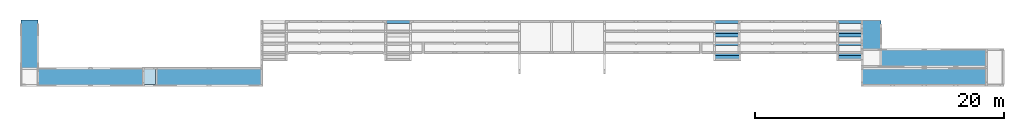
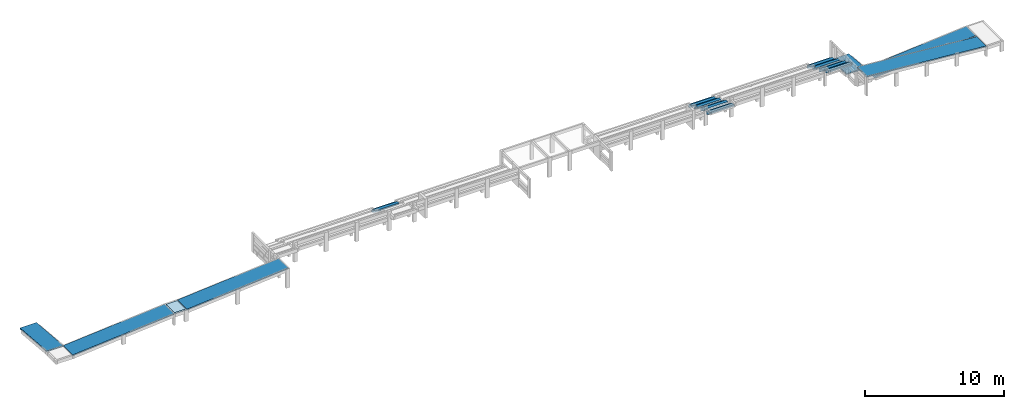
# One storey, part 9 of 9: 9 stair flights, 6 ramp flights, 1 slab.
"""IFC4 building model written with IfcOpenShell, lengths in centimetres."""

from ifc_helpers import new_model, si_unit, derived_unit, frame, origin_with_axes, place, context, project, spatial, polyline, outline, extrude, faceted_brep, material, element, save


model = new_model("IFC4")

# Units and contexts
model_context = context("Model", 3, precision=1e-05, world=origin_with_axes(), identifier="Body")
ifc_project = project(units=[si_unit("LENGTHUNIT", "METRE", prefix="CENTI"), si_unit("VOLUMEUNIT", "CUBIC_METRE"), si_unit("AREAUNIT", "SQUARE_METRE"), si_unit("POWERUNIT", "WATT"), si_unit("LUMINOUSFLUXUNIT", "LUMEN"), si_unit("ELECTRICCURRENTUNIT", "AMPERE"), si_unit("PRESSUREUNIT", "PASCAL", prefix="KILO"), si_unit("MASSUNIT", "GRAM", prefix="KILO"), si_unit("PLANEANGLEUNIT", "RADIAN"), derived_unit("VOLUMETRICFLOWRATEUNIT", [(si_unit("LENGTHUNIT", "METRE"), 3), (si_unit("TIMEUNIT", "SECOND"), -1)])], contexts=[model_context])

# Site, building, storey
site_placement = place(None, origin_with_axes())
site = spatial("IfcSite", under=ifc_project, at=site_placement)
building_placement = place(site_placement, frame((0.0, 0.0, -170.0)))
building = spatial("IfcBuilding", under=site, at=building_placement)
placement = place(building_placement, origin_with_axes())
storey_placement = place(placement, frame((0.0, 0.0, 170.0), z_axis=(0.0, 0.0, 1.0), x_axis=(1.0, 0.0, 0.0)))
storey = spatial("IfcBuildingStorey", under=building, at=storey_placement, Name="Arquibancada", CompositionType="ELEMENT", Elevation=0.0)

# Slab
ifc_material = material(Name="Concreto")
slab_placement = place(storey_placement, frame((-890.5, -61.5, -69.0), z_axis=(0.0, 0.0, 1.0), x_axis=(1.0, 0.0, 0.0)))
element("IfcSlab", 1, at=slab_placement, inside=storey, material=ifc_material, Name="L6", PredefinedType="FLOOR", context=model_context, shape_type="SolidModel", body=[
    extrude(outline(polyline([(46.0, 61.5), (-46.0, 61.5), (-46.0, -61.5), (46.0, -61.5), (46.0, 61.5), (46.0, 61.5)])), frame((0.0, 0.0, -4.0), z_axis=(0.0, 0.0, 1.0), x_axis=(1.0, 0.0, 0.0)), (0.0, 0.0, 1.0), 4.0),
    faceted_brep([(-46.0, -57.5, -12.0), (46.0, -57.5, -12.0), (46.0, -61.5, -12.0), (-46.0, -61.5, -12.0), (-46.0, -61.5, -4.0), (46.0, -61.5, -4.0), (46.0, -57.5, -4.0), (-46.0, -57.5, -4.0)], [[[0, 1, 2, 3]], [[4, 5, 6, 7]], [[4, 3, 5]], [[3, 2, 5]], [[5, 2, 6]], [[2, 1, 6]], [[6, 1, 7]], [[1, 0, 7]], [[7, 0, 4]], [[0, 3, 4]]]),
    faceted_brep([(-46.0, -56.0, -12.0), (46.0, -56.0, -12.0), (46.0, -57.5, -12.0), (-46.0, -57.5, -12.0), (-46.0, -57.5, -9.0), (46.0, -57.5, -9.0), (46.0, -56.0, -9.0), (-46.0, -56.0, -9.0)], [[[0, 1, 2, 3]], [[4, 5, 6, 7]], [[4, 3, 5]], [[3, 2, 5]], [[5, 2, 6]], [[2, 1, 6]], [[6, 1, 7]], [[1, 0, 7]], [[7, 0, 4]], [[0, 3, 4]]]),
    faceted_brep([(-46.0, -19.5, -12.0), (46.0, -19.5, -12.0), (46.0, -27.5, -12.0), (-46.0, -27.5, -12.0), (-46.0, -27.5, -4.0), (46.0, -27.5, -4.0), (46.0, -19.5, -4.0), (-46.0, -19.5, -4.0)], [[[0, 1, 2, 3]], [[4, 5, 6, 7]], [[4, 3, 5]], [[3, 2, 5]], [[5, 2, 6]], [[2, 1, 6]], [[6, 1, 7]], [[1, 0, 7]], [[7, 0, 4]], [[0, 3, 4]]]),
    faceted_brep([(-46.0, -18.0, -12.0), (46.0, -18.0, -12.0), (46.0, -19.5, -12.0), (-46.0, -19.5, -12.0), (-46.0, -19.5, -9.0), (46.0, -19.5, -9.0), (46.0, -18.0, -9.0), (-46.0, -18.0, -9.0)], [[[0, 1, 2, 3]], [[4, 5, 6, 7]], [[4, 3, 5]], [[3, 2, 5]], [[5, 2, 6]], [[2, 1, 6]], [[6, 1, 7]], [[1, 0, 7]], [[7, 0, 4]], [[0, 3, 4]]]),
    faceted_brep([(-46.0, -27.5, -12.0), (46.0, -27.5, -12.0), (46.0, -29.0, -12.0), (-46.0, -29.0, -12.0), (-46.0, -29.0, -9.0), (46.0, -29.0, -9.0), (46.0, -27.5, -9.0), (-46.0, -27.5, -9.0)], [[[0, 1, 2, 3]], [[4, 5, 6, 7]], [[4, 3, 5]], [[3, 2, 5]], [[5, 2, 6]], [[2, 1, 6]], [[6, 1, 7]], [[1, 0, 7]], [[7, 0, 4]], [[0, 3, 4]]]),
    faceted_brep([(-46.0, 18.5, -12.0), (46.0, 18.5, -12.0), (46.0, 10.5, -12.0), (-46.0, 10.5, -12.0), (-46.0, 10.5, -4.0), (46.0, 10.5, -4.0), (46.0, 18.5, -4.0), (-46.0, 18.5, -4.0)], [[[0, 1, 2, 3]], [[4, 5, 6, 7]], [[4, 3, 5]], [[3, 2, 5]], [[5, 2, 6]], [[2, 1, 6]], [[6, 1, 7]], [[1, 0, 7]], [[7, 0, 4]], [[0, 3, 4]]]),
    faceted_brep([(-46.0, 20.0, -12.0), (46.0, 20.0, -12.0), (46.0, 18.5, -12.0), (-46.0, 18.5, -12.0), (-46.0, 18.5, -9.0), (46.0, 18.5, -9.0), (46.0, 20.0, -9.0), (-46.0, 20.0, -9.0)], [[[0, 1, 2, 3]], [[4, 5, 6, 7]], [[4, 3, 5]], [[3, 2, 5]], [[5, 2, 6]], [[2, 1, 6]], [[6, 1, 7]], [[1, 0, 7]], [[7, 0, 4]], [[0, 3, 4]]]),
    faceted_brep([(-46.0, 10.5, -12.0), (46.0, 10.5, -12.0), (46.0, 9.0, -12.0), (-46.0, 9.0, -12.0), (-46.0, 9.0, -9.0), (46.0, 9.0, -9.0), (46.0, 10.5, -9.0), (-46.0, 10.5, -9.0)], [[[0, 1, 2, 3]], [[4, 5, 6, 7]], [[4, 3, 5]], [[3, 2, 5]], [[5, 2, 6]], [[2, 1, 6]], [[6, 1, 7]], [[1, 0, 7]], [[7, 0, 4]], [[0, 3, 4]]]),
    faceted_brep([(-46.0, 56.5, -12.0), (46.0, 56.5, -12.0), (46.0, 48.5, -12.0), (-46.0, 48.5, -12.0), (-46.0, 48.5, -4.0), (46.0, 48.5, -4.0), (46.0, 56.5, -4.0), (-46.0, 56.5, -4.0)], [[[0, 1, 2, 3]], [[4, 5, 6, 7]], [[4, 3, 5]], [[3, 2, 5]], [[5, 2, 6]], [[2, 1, 6]], [[6, 1, 7]], [[1, 0, 7]], [[7, 0, 4]], [[0, 3, 4]]]),
    faceted_brep([(-46.0, 58.0, -12.0), (46.0, 58.0, -12.0), (46.0, 56.5, -12.0), (-46.0, 56.5, -12.0), (-46.0, 56.5, -9.0), (46.0, 56.5, -9.0), (46.0, 58.0, -9.0), (-46.0, 58.0, -9.0)], [[[0, 1, 2, 3]], [[4, 5, 6, 7]], [[4, 3, 5]], [[3, 2, 5]], [[5, 2, 6]], [[2, 1, 6]], [[6, 1, 7]], [[1, 0, 7]], [[7, 0, 4]], [[0, 3, 4]]]),
    faceted_brep([(-46.0, 48.5, -12.0), (46.0, 48.5, -12.0), (46.0, 47.0, -12.0), (-46.0, 47.0, -12.0), (-46.0, 47.0, -9.0), (46.0, 47.0, -9.0), (46.0, 48.5, -9.0), (-46.0, 48.5, -9.0)], [[[0, 1, 2, 3]], [[4, 5, 6, 7]], [[4, 3, 5]], [[3, 2, 5]], [[5, 2, 6]], [[2, 1, 6]], [[6, 1, 7]], [[1, 0, 7]], [[7, 0, 4]], [[0, 3, 4]]]),
])

# Stair flights
stair_flight_1_placement = place(storey_placement, frame((4722.37, 110.0, -17.0), z_axis=(0.0, 0.0, 1.0), x_axis=(1.0, 0.0, 0.0)))
element("IfcStairFlight", 2, at=stair_flight_1_placement, inside=storey, material=ifc_material, Name="LE16", NumberOfRisers=0, NumberOfTreads=0, context=model_context, shape_type="Brep", body=[
    faceted_brep([(97.75, -27.0, 0.0), (97.75, 0.0, 0.0), (-97.75, 0.0, 0.0), (-97.75, -27.0, 0.0), (97.75, 0.0, -29.99878647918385), (97.75, -27.0, -12.998786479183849), (-97.75, -27.0, -12.998786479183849), (-97.75, 0.0, -29.99878647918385), (97.75, -27.0, -12.998786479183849), (97.75, -27.0, 0.0), (-97.75, -27.0, 0.0), (-97.75, -27.0, -12.998786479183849), (97.75, 0.0, 0.0), (97.75, 0.0, -29.99878647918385), (-97.75, 0.0, -29.99878647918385), (-97.75, 0.0, 0.0), (-97.75, 0.0, -29.99878647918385), (-97.75, -27.0, -12.998786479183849), (-97.75, -27.0, 0.0), (-97.75, 0.0, 0.0), (97.75, 0.0, -29.99878647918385), (97.75, 0.0, 0.0), (97.75, -27.0, 0.0), (97.75, -27.0, -12.998786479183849), (97.75, 0.0, -17.0), (97.75, 27.0, -17.0), (-97.75, 27.0, -17.0), (-97.75, 0.0, -17.0), (97.75, 27.0, -46.36915684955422), (97.75, 0.0, -29.99878647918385), (-97.75, 0.0, -29.99878647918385), (-97.75, 27.0, -46.36915684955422), (97.75, 0.0, -29.99878647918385), (97.75, 0.0, -17.0), (-97.75, 0.0, -17.0), (-97.75, 0.0, -29.99878647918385), (97.75, 27.0, -17.0), (97.75, 27.0, -46.36915684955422), (-97.75, 27.0, -46.36915684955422), (-97.75, 27.0, -17.0), (-97.75, 27.0, -46.36915684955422), (-97.75, 0.0, -29.99878647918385), (-97.75, 0.0, -17.0), (-97.75, 27.0, -17.0), (97.75, 27.0, -46.36915684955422), (97.75, 27.0, -17.0), (97.75, 0.0, -17.0), (97.75, 0.0, -29.99878647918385)], [[[0, 1, 2, 3]], [[4, 5, 6, 7]], [[8, 9, 10, 11]], [[12, 13, 14, 15]], [[16, 17, 18, 19]], [[20, 21, 22, 23]], [[24, 25, 26, 27]], [[28, 29, 30, 31]], [[32, 33, 34, 35]], [[36, 37, 38, 39]], [[40, 41, 42, 43]], [[44, 45, 46, 47]]]),
])
stair_flight_2_placement = place(storey_placement, frame((3739.09, 110.0, -36.0), z_axis=(0.0, 0.0, 1.0), x_axis=(1.0, 0.0, 0.0)))
element("IfcStairFlight", 3, at=stair_flight_2_placement, inside=storey, material=ifc_material, Name="LE17", NumberOfRisers=0, NumberOfTreads=0, context=model_context, shape_type="Brep", body=[
    faceted_brep([(102.0, -27.0, 0.0), (102.0, 0.0, 0.0), (-102.0, 0.0, 0.0), (-102.0, -27.0, 0.0), (102.0, 0.0, -29.99878647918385), (102.0, -27.0, -12.998786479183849), (-102.0, -27.0, -12.998786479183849), (-102.0, 0.0, -29.99878647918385), (102.0, -27.0, -12.998786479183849), (102.0, -27.0, 0.0), (-102.0, -27.0, 0.0), (-102.0, -27.0, -12.998786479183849), (102.0, 0.0, 0.0), (102.0, 0.0, -29.99878647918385), (-102.0, 0.0, -29.99878647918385), (-102.0, 0.0, 0.0), (-102.0, 0.0, -29.99878647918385), (-102.0, -27.0, -12.998786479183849), (-102.0, -27.0, 0.0), (-102.0, 0.0, 0.0), (102.0, 0.0, -29.99878647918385), (102.0, 0.0, 0.0), (102.0, -27.0, 0.0), (102.0, -27.0, -12.998786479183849), (102.0, 0.0, -17.0), (102.0, 27.0, -17.0), (-102.0, 27.0, -17.0), (-102.0, 0.0, -17.0), (102.0, 27.0, -46.369156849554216), (102.0, 0.0, -29.99878647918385), (-102.0, 0.0, -29.99878647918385), (-102.0, 27.0, -46.369156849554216), (102.0, 0.0, -29.99878647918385), (102.0, 0.0, -17.0), (-102.0, 0.0, -17.0), (-102.0, 0.0, -29.99878647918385), (102.0, 27.0, -17.0), (102.0, 27.0, -46.369156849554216), (-102.0, 27.0, -46.369156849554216), (-102.0, 27.0, -17.0), (-102.0, 27.0, -46.369156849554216), (-102.0, 0.0, -29.99878647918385), (-102.0, 0.0, -17.0), (-102.0, 27.0, -17.0), (102.0, 27.0, -46.369156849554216), (102.0, 27.0, -17.0), (102.0, 0.0, -17.0), (102.0, 0.0, -29.99878647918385)], [[[0, 1, 2, 3]], [[4, 5, 6, 7]], [[8, 9, 10, 11]], [[12, 13, 14, 15]], [[16, 17, 18, 19]], [[20, 21, 22, 23]], [[24, 25, 26, 27]], [[28, 29, 30, 31]], [[32, 33, 34, 35]], [[36, 37, 38, 39]], [[40, 41, 42, 43]], [[44, 45, 46, 47]]]),
])
for number, where, z_axis, x_axis, name in (
    (4, (3735.59, 190.0, -56.0), (0.0, 0.0, 1.0), (1.0, 0.0, 0.0), "LE27"),
    (5, (3735.59, 285.0, -94.0), (0.0, 0.0, 1.0), (1.0, 0.0, 0.0), "LE41"),
):
    element("IfcStairFlight", number, at=place(storey_placement, frame(where, z_axis=z_axis, x_axis=x_axis)), inside=storey, material=ifc_material, Name=name, NumberOfRisers=0, NumberOfTreads=0, context=model_context, shape_type="Brep", body=[
        faceted_brep([(98.5, -27.0, 0.0), (98.5, 0.0, 0.0), (-98.5, 0.0, 0.0), (-98.5, -27.0, 0.0), (98.5, 0.0, -29.99878647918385), (98.5, -27.0, -12.998786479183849), (-98.5, -27.0, -12.998786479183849), (-98.5, 0.0, -29.99878647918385), (98.5, -27.0, -12.998786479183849), (98.5, -27.0, 0.0), (-98.5, -27.0, 0.0), (-98.5, -27.0, -12.998786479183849), (98.5, 0.0, 0.0), (98.5, 0.0, -29.99878647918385), (-98.5, 0.0, -29.99878647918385), (-98.5, 0.0, 0.0), (-98.5, 0.0, -29.99878647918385), (-98.5, -27.0, -12.998786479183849), (-98.5, -27.0, 0.0), (-98.5, 0.0, 0.0), (98.5, 0.0, -29.99878647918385), (98.5, 0.0, 0.0), (98.5, -27.0, 0.0), (98.5, -27.0, -12.998786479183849), (98.5, 0.0, -17.0), (98.5, 27.0, -17.0), (-98.5, 27.0, -17.0), (-98.5, 0.0, -17.0), (98.5, 27.0, -46.99878647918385), (98.5, 0.0, -29.99878647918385), (-98.5, 0.0, -29.99878647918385), (-98.5, 27.0, -46.99878647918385), (98.5, 0.0, -29.99878647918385), (98.5, 0.0, -17.0), (-98.5, 0.0, -17.0), (-98.5, 0.0, -29.99878647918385), (98.5, 27.0, -17.0), (98.5, 27.0, -46.99878647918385), (-98.5, 27.0, -46.99878647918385), (-98.5, 27.0, -17.0), (-98.5, 27.0, -46.99878647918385), (-98.5, 0.0, -29.99878647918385), (-98.5, 0.0, -17.0), (-98.5, 27.0, -17.0), (98.5, 27.0, -46.99878647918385), (98.5, 27.0, -17.0), (98.5, 0.0, -17.0), (98.5, 0.0, -29.99878647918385)], [[[0, 1, 2, 3]], [[4, 5, 6, 7]], [[8, 9, 10, 11]], [[12, 13, 14, 15]], [[16, 17, 18, 19]], [[20, 21, 22, 23]], [[24, 25, 26, 27]], [[28, 29, 30, 31]], [[32, 33, 34, 35]], [[36, 37, 38, 39]], [[40, 41, 42, 43]], [[44, 45, 46, 47]]]),
    ])
stair_flight_3_placement = place(storey_placement, frame((4722.37, 285.0, -94.0), z_axis=(0.0, 0.0, 1.0), x_axis=(1.0, 0.0, 0.0)))
element("IfcStairFlight", 6, at=stair_flight_3_placement, inside=storey, material=ifc_material, Name="LE42", NumberOfRisers=0, NumberOfTreads=0, context=model_context, shape_type="Brep", body=[
    faceted_brep([(97.75, -27.0, 0.0), (97.75, 0.0, 0.0), (-97.75, 0.0, 0.0), (-97.75, -27.0, 0.0), (97.75, 0.0, -29.99878647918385), (97.75, -27.0, -12.998786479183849), (-97.75, -27.0, -12.998786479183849), (-97.75, 0.0, -29.99878647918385), (97.75, -27.0, -12.998786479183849), (97.75, -27.0, 0.0), (-97.75, -27.0, 0.0), (-97.75, -27.0, -12.998786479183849), (97.75, 0.0, 0.0), (97.75, 0.0, -29.99878647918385), (-97.75, 0.0, -29.99878647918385), (-97.75, 0.0, 0.0), (-97.75, 0.0, -29.99878647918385), (-97.75, -27.0, -12.998786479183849), (-97.75, -27.0, 0.0), (-97.75, 0.0, 0.0), (97.75, 0.0, -29.99878647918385), (97.75, 0.0, 0.0), (97.75, -27.0, 0.0), (97.75, -27.0, -12.998786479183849), (97.75, 0.0, -17.0), (97.75, 27.0, -17.0), (-97.75, 27.0, -17.0), (-97.75, 0.0, -17.0), (97.75, 27.0, -46.99878647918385), (97.75, 0.0, -29.99878647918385), (-97.75, 0.0, -29.99878647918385), (-97.75, 27.0, -46.99878647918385), (97.75, 0.0, -29.99878647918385), (97.75, 0.0, -17.0), (-97.75, 0.0, -17.0), (-97.75, 0.0, -29.99878647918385), (97.75, 27.0, -17.0), (97.75, 27.0, -46.99878647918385), (-97.75, 27.0, -46.99878647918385), (-97.75, 27.0, -17.0), (-97.75, 27.0, -46.99878647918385), (-97.75, 0.0, -29.99878647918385), (-97.75, 0.0, -17.0), (-97.75, 27.0, -17.0), (97.75, 27.0, -46.99878647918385), (97.75, 27.0, -17.0), (97.75, 0.0, -17.0), (97.75, 0.0, -29.99878647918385)], [[[0, 1, 2, 3]], [[4, 5, 6, 7]], [[8, 9, 10, 11]], [[12, 13, 14, 15]], [[16, 17, 18, 19]], [[20, 21, 22, 23]], [[24, 25, 26, 27]], [[28, 29, 30, 31]], [[32, 33, 34, 35]], [[36, 37, 38, 39]], [[40, 41, 42, 43]], [[44, 45, 46, 47]]]),
])
for number, where, z_axis, x_axis, name in (
    (7, (1100.03, 365.0, -132.0), (0.0, 0.0, 1.0), (1.0, 0.0, 0.0), "LE53"),
    (8, (3735.59, 365.0, -132.0), (0.0, 0.0, 1.0), (1.0, 0.0, 0.0), "LE55"),
):
    element("IfcStairFlight", number, at=place(storey_placement, frame(where, z_axis=z_axis, x_axis=x_axis)), inside=storey, material=ifc_material, Name=name, NumberOfRisers=0, NumberOfTreads=0, context=model_context, shape_type="Brep", body=[
        faceted_brep([(98.5, -27.0, 0.0), (98.5, 0.0, 0.0), (-98.5, 0.0, 0.0), (-98.5, -27.0, 0.0), (98.5, 0.0, -29.99878647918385), (98.5, -27.0, -12.998786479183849), (-98.5, -27.0, -12.998786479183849), (-98.5, 0.0, -29.99878647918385), (98.5, -27.0, -12.998786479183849), (98.5, -27.0, 0.0), (-98.5, -27.0, 0.0), (-98.5, -27.0, -12.998786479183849), (98.5, 0.0, 0.0), (98.5, 0.0, -29.99878647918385), (-98.5, 0.0, -29.99878647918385), (-98.5, 0.0, 0.0), (-98.5, 0.0, -29.99878647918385), (-98.5, -27.0, -12.998786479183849), (-98.5, -27.0, 0.0), (-98.5, 0.0, 0.0), (98.5, 0.0, -29.99878647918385), (98.5, 0.0, 0.0), (98.5, -27.0, 0.0), (98.5, -27.0, -12.998786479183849), (98.5, 0.0, -17.0), (98.5, 27.0, -17.0), (-98.5, 27.0, -17.0), (-98.5, 0.0, -17.0), (98.5, 27.0, -46.99878647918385), (98.5, 0.0, -29.99878647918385), (-98.5, 0.0, -29.99878647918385), (-98.5, 27.0, -46.99878647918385), (98.5, 0.0, -29.99878647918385), (98.5, 0.0, -17.0), (-98.5, 0.0, -17.0), (-98.5, 0.0, -29.99878647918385), (98.5, 27.0, -17.0), (98.5, 27.0, -46.99878647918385), (-98.5, 27.0, -46.99878647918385), (-98.5, 27.0, -17.0), (-98.5, 27.0, -46.99878647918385), (-98.5, 0.0, -29.99878647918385), (-98.5, 0.0, -17.0), (-98.5, 27.0, -17.0), (98.5, 27.0, -46.99878647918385), (98.5, 27.0, -17.0), (98.5, 0.0, -17.0), (98.5, 0.0, -29.99878647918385)], [[[0, 1, 2, 3]], [[4, 5, 6, 7]], [[8, 9, 10, 11]], [[12, 13, 14, 15]], [[16, 17, 18, 19]], [[20, 21, 22, 23]], [[24, 25, 26, 27]], [[28, 29, 30, 31]], [[32, 33, 34, 35]], [[36, 37, 38, 39]], [[40, 41, 42, 43]], [[44, 45, 46, 47]]]),
    ])
stair_flight_4_placement = place(storey_placement, frame((4722.37, 365.0, -132.0), z_axis=(0.0, 0.0, 1.0), x_axis=(1.0, 0.0, 0.0)))
element("IfcStairFlight", 9, at=stair_flight_4_placement, inside=storey, material=ifc_material, Name="LE57", NumberOfRisers=0, NumberOfTreads=0, context=model_context, shape_type="Brep", body=[
    faceted_brep([(97.75, -27.0, 0.0), (97.75, 0.0, 0.0), (-97.75, 0.0, 0.0), (-97.75, -27.0, 0.0), (97.75, 0.0, -29.99878647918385), (97.75, -27.0, -12.998786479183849), (-97.75, -27.0, -12.998786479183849), (-97.75, 0.0, -29.99878647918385), (97.75, -27.0, -12.998786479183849), (97.75, -27.0, 0.0), (-97.75, -27.0, 0.0), (-97.75, -27.0, -12.998786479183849), (97.75, 0.0, 0.0), (97.75, 0.0, -29.99878647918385), (-97.75, 0.0, -29.99878647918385), (-97.75, 0.0, 0.0), (-97.75, 0.0, -29.99878647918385), (-97.75, -27.0, -12.998786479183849), (-97.75, -27.0, 0.0), (-97.75, 0.0, 0.0), (97.75, 0.0, -29.99878647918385), (97.75, 0.0, 0.0), (97.75, -27.0, 0.0), (97.75, -27.0, -12.998786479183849), (97.75, 0.0, -17.0), (97.75, 27.0, -17.0), (-97.75, 27.0, -17.0), (-97.75, 0.0, -17.0), (97.75, 27.0, -46.99878647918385), (97.75, 0.0, -29.99878647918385), (-97.75, 0.0, -29.99878647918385), (-97.75, 27.0, -46.99878647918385), (97.75, 0.0, -29.99878647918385), (97.75, 0.0, -17.0), (-97.75, 0.0, -17.0), (-97.75, 0.0, -29.99878647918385), (97.75, 27.0, -17.0), (97.75, 27.0, -46.99878647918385), (-97.75, 27.0, -46.99878647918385), (-97.75, 27.0, -17.0), (-97.75, 27.0, -46.99878647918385), (-97.75, 0.0, -29.99878647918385), (-97.75, 0.0, -17.0), (-97.75, 27.0, -17.0), (97.75, 27.0, -46.99878647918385), (97.75, 27.0, -17.0), (97.75, 0.0, -17.0), (97.75, 0.0, -29.99878647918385)], [[[0, 1, 2, 3]], [[4, 5, 6, 7]], [[8, 9, 10, 11]], [[12, 13, 14, 15]], [[16, 17, 18, 19]], [[20, 21, 22, 23]], [[24, 25, 26, 27]], [[28, 29, 30, 31]], [[32, 33, 34, 35]], [[36, 37, 38, 39]], [[40, 41, 42, 43]], [[44, 45, 46, 47]]]),
])
stair_flight_5_placement = place(storey_placement, frame((4722.37, 190.13, -56.0), z_axis=(0.0, 0.0, 1.0), x_axis=(1.0, 0.0, 0.0)))
element("IfcStairFlight", 10, at=stair_flight_5_placement, inside=storey, material=ifc_material, Name="LE58", NumberOfRisers=0, NumberOfTreads=0, context=model_context, shape_type="Brep", body=[
    faceted_brep([(97.75, -27.0, 0.0), (97.75, 0.0, 0.0), (-97.75, 0.0, 0.0), (-97.75, -27.0, 0.0), (97.75, 0.0, -29.99878647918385), (97.75, -27.0, -12.998786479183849), (-97.75, -27.0, -12.998786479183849), (-97.75, 0.0, -29.99878647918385), (97.75, -27.0, -12.998786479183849), (97.75, -27.0, 0.0), (-97.75, -27.0, 0.0), (-97.75, -27.0, -12.998786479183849), (97.75, 0.0, 0.0), (97.75, 0.0, -29.99878647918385), (-97.75, 0.0, -29.99878647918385), (-97.75, 0.0, 0.0), (-97.75, 0.0, -29.99878647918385), (-97.75, -27.0, -12.998786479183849), (-97.75, -27.0, 0.0), (-97.75, 0.0, 0.0), (97.75, 0.0, -29.99878647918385), (97.75, 0.0, 0.0), (97.75, -27.0, 0.0), (97.75, -27.0, -12.998786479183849), (97.75, 0.0, -17.0), (97.75, 26.87, -17.0), (-97.75, 26.87, -17.0), (-97.75, 0.0, -17.0), (97.75, 26.87, -46.916934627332), (97.75, 0.0, -29.99878647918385), (-97.75, 0.0, -29.99878647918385), (-97.75, 26.87, -46.916934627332), (97.75, 0.0, -29.99878647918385), (97.75, 0.0, -17.0), (-97.75, 0.0, -17.0), (-97.75, 0.0, -29.99878647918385), (97.75, 26.87, -17.0), (97.75, 26.87, -46.916934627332), (-97.75, 26.87, -46.916934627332), (-97.75, 26.87, -17.0), (-97.75, 26.87, -46.916934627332), (-97.75, 0.0, -29.99878647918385), (-97.75, 0.0, -17.0), (-97.75, 26.87, -17.0), (97.75, 26.87, -46.916934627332), (97.75, 26.87, -17.0), (97.75, 0.0, -17.0), (97.75, 0.0, -29.99878647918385), (97.75, 26.87, -17.0), (97.75, 27.0, -17.0), (-97.75, 27.0, -17.0), (-97.75, 26.87, -17.0), (97.75, 27.0, -38.0), (97.75, 26.87, -38.0), (-97.75, 26.87, -38.0), (-97.75, 27.0, -38.0), (97.75, 26.87, -38.0), (97.75, 26.87, -17.0), (-97.75, 26.87, -17.0), (-97.75, 26.87, -38.0), (97.75, 27.0, -17.0), (97.75, 27.0, -38.0), (-97.75, 27.0, -38.0), (-97.75, 27.0, -17.0), (-97.75, 27.0, -38.0), (-97.75, 26.87, -38.0), (-97.75, 26.87, -17.0), (-97.75, 27.0, -17.0), (97.75, 27.0, -38.0), (97.75, 27.0, -17.0), (97.75, 26.87, -17.0), (97.75, 26.87, -38.0)], [[[0, 1, 2, 3]], [[4, 5, 6, 7]], [[8, 9, 10, 11]], [[12, 13, 14, 15]], [[16, 17, 18, 19]], [[20, 21, 22, 23]], [[24, 25, 26, 27]], [[28, 29, 30, 31]], [[32, 33, 34, 35]], [[36, 37, 38, 39]], [[40, 41, 42, 43]], [[44, 45, 46, 47]], [[48, 49, 50, 51]], [[52, 53, 54, 55]], [[56, 57, 58, 59]], [[60, 61, 62, 63]], [[64, 65, 66, 67]], [[68, 69, 70, 71]]]),
])

# Ramp flights
ramp_flight_1_placement = place(storey_placement, frame((5393.12, 89.5, -82.0), z_axis=(0.0, 0.0, 1.0), x_axis=(1.0, 0.0, 0.0)))
element("IfcRampFlight", 11, at=ramp_flight_1_placement, inside=storey, material=ifc_material, Name="LE13", context=model_context, shape_type="SolidModel", body=[
    faceted_brep([(-422.0, -68.0, -80.03669882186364), (-422.0, 68.0, -80.03669882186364), (422.0, 68.0, -11.036698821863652), (422.0, -68.0, -11.036698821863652), (422.0, -68.0, 0.0), (422.0, 68.0, 0.0), (-422.0, 68.0, -69.0), (-422.0, -68.0, -69.0)], [[[0, 1, 2, 3]], [[4, 5, 6, 7]], [[4, 3, 5]], [[3, 2, 5]], [[5, 2, 6]], [[2, 1, 6]], [[6, 1, 7]], [[1, 0, 7]], [[7, 0, 4]], [[0, 3, 4]]]),
])
ramp_flight_2_placement = place(storey_placement, frame((-415.0, -61.5, 0.0), z_axis=(0.0, 0.0, 1.0), x_axis=(1.0, 0.0, 0.0)))
element("IfcRampFlight", 12, at=ramp_flight_2_placement, inside=storey, material=ifc_material, Name="R1", context=model_context, shape_type="SolidModel", body=[
    faceted_brep([(-422.5, -68.5, -80.03661215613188), (-422.5, 68.5, -80.03661215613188), (422.5, 68.5, -11.03661215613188), (422.5, -68.5, -11.03661215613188), (422.5, -68.5, 0.0), (422.5, 68.5, 0.0), (-422.5, 68.5, -69.0), (-422.5, -68.5, -69.0)], [[[0, 1, 2, 3]], [[4, 5, 6, 7]], [[4, 3, 5]], [[3, 2, 5]], [[5, 2, 6]], [[2, 1, 6]], [[6, 1, 7]], [[1, 0, 7]], [[7, 0, 4]], [[0, 3, 4]]]),
])
ramp_flight_3_placement = place(storey_placement, frame((5317.62, -61.5, 0.0), z_axis=(0.0, 0.0, 1.0), x_axis=(1.0, 0.0, 0.0)))
element("IfcRampFlight", 13, at=ramp_flight_3_placement, inside=storey, material=ifc_material, Name="R2", context=model_context, shape_type="SolidModel", body=[
    faceted_brep([(-497.5, 68.0, -11.03729140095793), (497.5, 68.0, -93.03729140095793), (497.5, -68.0, -93.03729140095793), (-497.5, -68.0, -11.03729140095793), (-497.5, -68.0, 0.0), (497.5, -68.0, -82.0), (497.5, 68.0, -82.0), (-497.5, 68.0, 0.0)], [[[0, 1, 2, 3]], [[4, 5, 6, 7]], [[4, 3, 5]], [[3, 2, 5]], [[5, 2, 6]], [[2, 1, 6]], [[6, 1, 7]], [[1, 0, 7]], [[7, 0, 4]], [[0, 3, 4]]]),
])
ramp_flight_4_placement = place(storey_placement, frame((-1365.5, -61.75, -69.0), z_axis=(0.0, 0.0, 1.0), x_axis=(1.0, 0.0, 0.0)))
element("IfcRampFlight", 14, at=ramp_flight_4_placement, inside=storey, material=ifc_material, Name="R3", context=model_context, shape_type="SolidModel", body=[
    faceted_brep([(-422.0, -68.25, -80.03669882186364), (-422.0, 68.25, -80.03669882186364), (422.0, 68.25, -11.036698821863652), (422.0, -68.25, -11.036698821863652), (422.0, -68.25, 0.0), (422.0, 68.25, 0.0), (-422.0, 68.25, -69.0), (-422.0, -68.25, -69.0)], [[[0, 1, 2, 3]], [[4, 5, 6, 7]], [[4, 3, 5]], [[3, 2, 5]], [[5, 2, 6]], [[2, 1, 6]], [[6, 1, 7]], [[1, 0, 7]], [[7, 0, 4]], [[0, 3, 4]]]),
])
ramp_flight_5_placement = place(storey_placement, frame((-1856.0, 200.0, -138.0), z_axis=(0.0, 0.0, 1.0), x_axis=(1.0, 0.0, 0.0)))
element("IfcRampFlight", 15, at=ramp_flight_5_placement, inside=storey, material=ifc_material, Name="R4", context=model_context, shape_type="SolidModel", body=[
    faceted_brep([(-68.5, 193.5, -43.03754051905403), (68.5, 193.5, -43.03754051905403), (68.5, -193.5, -11.037540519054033), (-68.5, -193.5, -11.037540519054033), (-68.5, -193.5, 0.0), (68.5, -193.5, 0.0), (68.5, 193.5, -32.0), (-68.5, 193.5, -32.0)], [[[0, 1, 2, 3]], [[4, 5, 6, 7]], [[4, 3, 5]], [[3, 2, 5]], [[5, 2, 6]], [[2, 1, 6]], [[6, 1, 7]], [[1, 0, 7]], [[7, 0, 4]], [[0, 3, 4]]]),
])
ramp_flight_6_placement = place(storey_placement, frame((4895.62, 274.75, -151.0), z_axis=(0.0, 0.0, 1.0), x_axis=(1.0, 0.0, 0.0)))
element("IfcRampFlight", 16, at=ramp_flight_6_placement, inside=storey, material=ifc_material, Name="R5", context=model_context, shape_type="SolidModel", body=[
    faceted_brep([(-75.5, 117.25, -30.03604733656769), (75.5, 117.25, -30.03604733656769), (75.5, -117.25, -11.036047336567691), (-75.5, -117.25, -11.036047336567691), (-75.5, -117.25, 0.0), (75.5, -117.25, 0.0), (75.5, 117.25, -19.0), (-75.5, 117.25, -19.0)], [[[0, 1, 2, 3]], [[4, 5, 6, 7]], [[4, 3, 5]], [[3, 2, 5]], [[5, 2, 6]], [[2, 1, 6]], [[6, 1, 7]], [[1, 0, 7]], [[7, 0, 4]], [[0, 3, 4]]]),
])

save(model, "model.ifc")
